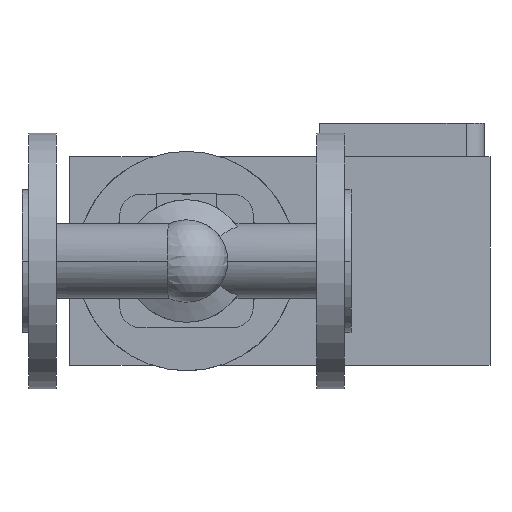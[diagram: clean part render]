
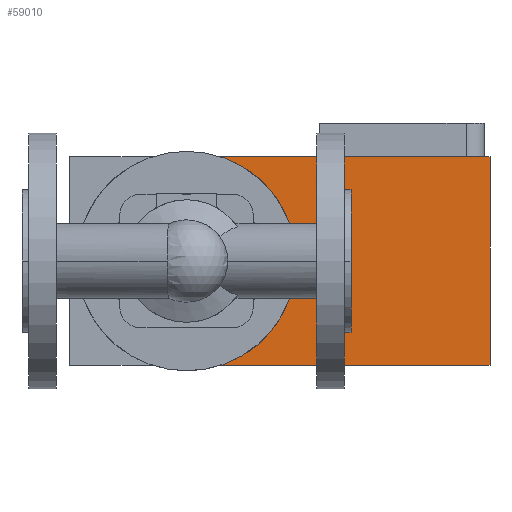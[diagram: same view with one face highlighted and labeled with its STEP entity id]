
A CAD part, front view. The second image highlights one B-rep face of the part: STEP entity #59010.
In plain terms, the highlighted planar face has unit normal (0, -1, 0).
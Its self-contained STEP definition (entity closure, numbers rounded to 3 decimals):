
#55550=CARTESIAN_POINT('',(-28.5,228.,32.));
#55560=DIRECTION('',(0.,1.,-0.));
#55570=DIRECTION('',(-1.,0.,0.));
#55580=AXIS2_PLACEMENT_3D('',#55550,#55560,#55570);
#55590=PLANE('',#55580);
#55600=CARTESIAN_POINT('',(-64.,228.,-25.));
#55610=DIRECTION('',(1.,0.,0.));
#55620=VECTOR('',#55610,1.);
#55630=LINE('',#55600,#55620);
#55780=CARTESIAN_POINT('',(-64.,228.,89.));
#55790=DIRECTION('',(1.,0.,0.));
#55800=VECTOR('',#55790,1.);
#55810=LINE('',#55780,#55800);
#55860=CARTESIAN_POINT('',(0.,228.,32.));
#55870=DIRECTION('',(0.,-1.,0.));
#55880=DIRECTION('',(-1.,0.,0.));
#55890=AXIS2_PLACEMENT_3D('',#55860,#55870,#55880);
#55900=CIRCLE('',#55890,60.);
#56090=CARTESIAN_POINT('',(18.735,228.,-25.));
#56100=VERTEX_POINT('',#56090);
#56150=CARTESIAN_POINT('',(166.,228.,-25.));
#56160=VERTEX_POINT('',#56150);
#56170=EDGE_CURVE('',#56100,#56160,#55630,.T.);
#57470=CARTESIAN_POINT('',(166.,228.,89.));
#57480=VERTEX_POINT('',#57470);
#57510=CARTESIAN_POINT('',(18.735,228.,89.));
#57520=VERTEX_POINT('',#57510);
#57530=EDGE_CURVE('',#57520,#57480,#55810,.T.);
#58780=CARTESIAN_POINT('',(60.,228.,32.));
#58790=VERTEX_POINT('',#58780);
#58800=EDGE_CURVE('',#58790,#57520,#55900,.T.);
#58880=ORIENTED_EDGE('',*,*,#57530,.F.);
#58890=CARTESIAN_POINT('',(166.,228.,32.));
#58900=DIRECTION('',(0.,0.,-1.));
#58910=VECTOR('',#58900,1.);
#58920=LINE('',#58890,#58910);
#58930=EDGE_CURVE('',#57480,#56160,#58920,.T.);
#58940=ORIENTED_EDGE('',*,*,#58930,.F.);
#58950=ORIENTED_EDGE('',*,*,#56170,.T.);
#58960=EDGE_CURVE('',#56100,#58790,#55900,.T.);
#58970=ORIENTED_EDGE('',*,*,#58960,.F.);
#58980=ORIENTED_EDGE('',*,*,#58800,.F.);
#58990=EDGE_LOOP('',(#58980,#58970,#58950,#58940,#58880));
#59000=FACE_OUTER_BOUND('',#58990,.T.);
#59010=ADVANCED_FACE('',(#59000),#55590,.F.);
